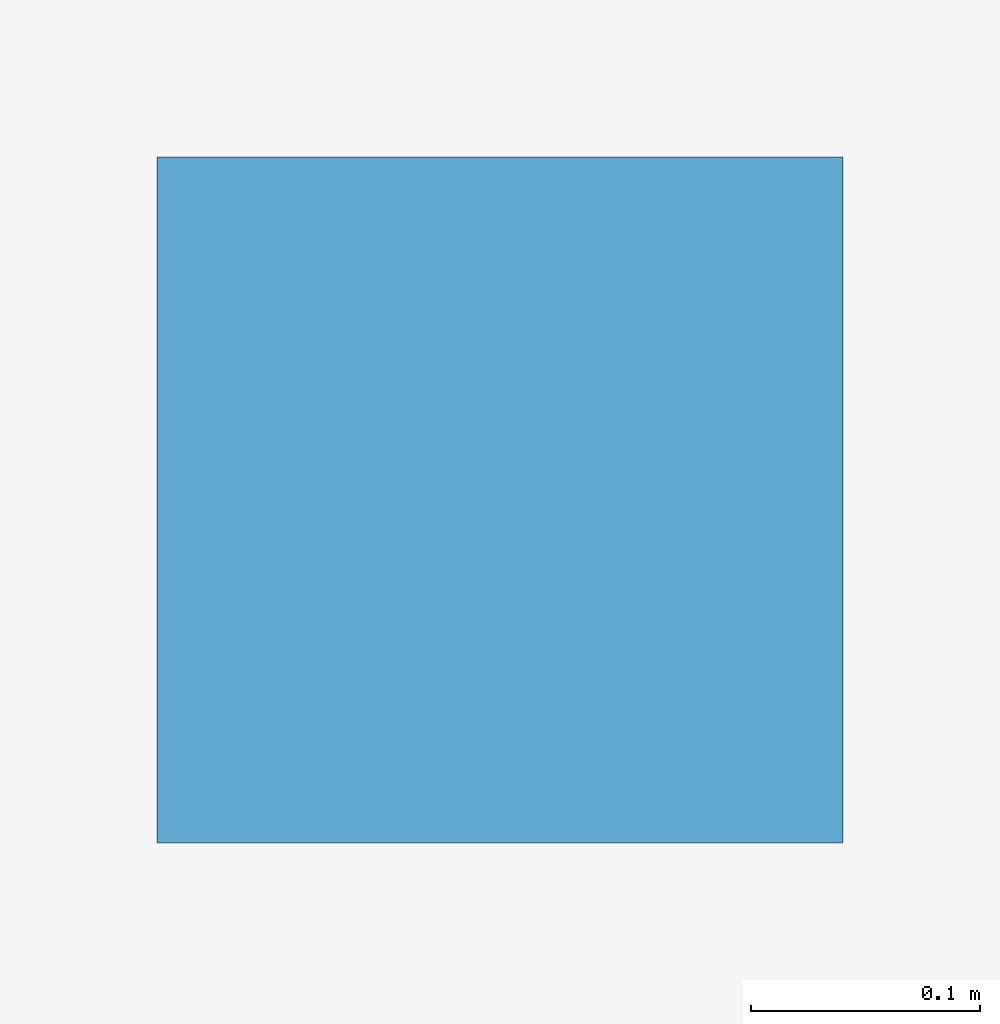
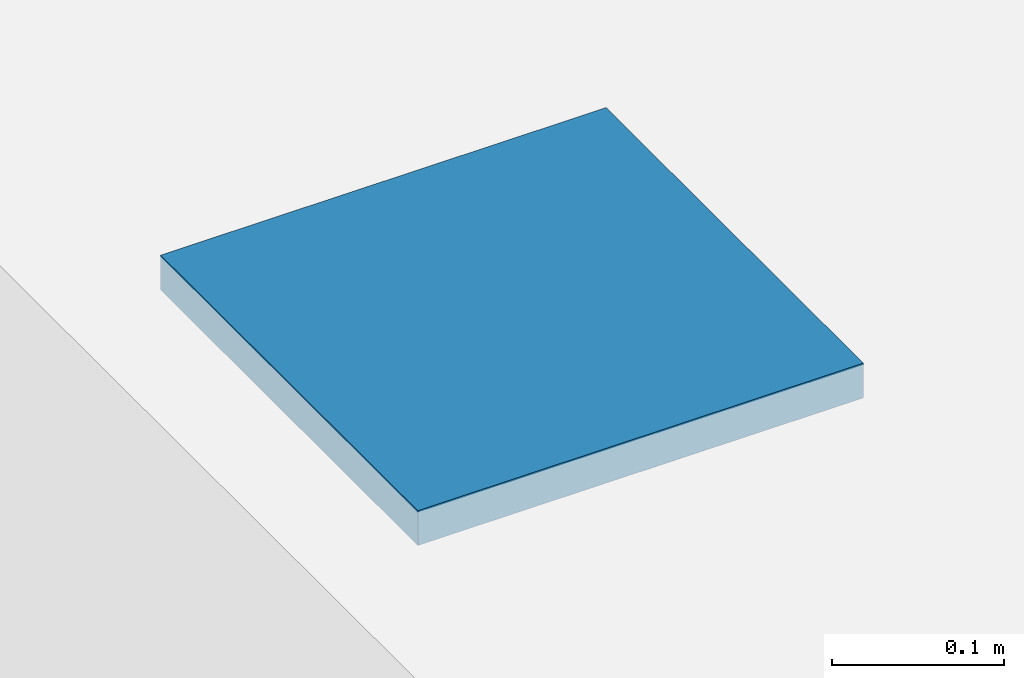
# One storey, part 38 of 194: 1 discrete accessory.
"""IFC2X3 building model written with IfcOpenShell, lengths in millimetres."""

from ifc_helpers import new_model, entity, si_unit, converted_unit, derived_unit, money_unit, direction, frame, origin_with_axes, place, context, subcontext, project, spatial, faceted_brep, source, transform, mapped, type_object, element, save


model = new_model("IFC2X3")

# Units and contexts
model_context = context("Model", 3, precision=1e-05, world=origin_with_axes(), true_north=direction((0.0, 1.0)))
body_context = subcontext(model_context, "Body", "Model", "MODEL_VIEW")
ifc_project = project(units=[si_unit("LENGTHUNIT", "METRE", prefix="MILLI"), si_unit("AREAUNIT", "SQUARE_METRE"), si_unit("VOLUMEUNIT", "CUBIC_METRE"), converted_unit("PLANEANGLEUNIT", "DEGREE", entity("IfcPlaneAngleMeasure", 0.0174532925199), si_unit("PLANEANGLEUNIT", "RADIAN"), dimensions=[0, 0, 0, 0, 0, 0, 0]), si_unit("SOLIDANGLEUNIT", "STERADIAN"), money_unit("EUR"), converted_unit("TIMEUNIT", "Year", entity("IfcTimeMeasure", 31556926.0), si_unit("TIMEUNIT", "SECOND"), dimensions=[0, 0, 1, 0, 0, 0, 0]), si_unit("MASSUNIT", "GRAM", prefix="KILO"), si_unit("THERMODYNAMICTEMPERATUREUNIT", "DEGREE_CELSIUS"), si_unit("LUMINOUSINTENSITYUNIT", "LUMEN"), si_unit("ENERGYUNIT", "JOULE", prefix="MEGA"), derived_unit("THERMALCONDUCTANCEUNIT", [(si_unit("POWERUNIT", "WATT"), 1), (si_unit("LENGTHUNIT", "METRE"), -1), (si_unit("THERMODYNAMICTEMPERATUREUNIT", "KELVIN"), -1)]), derived_unit("SPECIFICHEATCAPACITYUNIT", [(si_unit("ENERGYUNIT", "JOULE"), 1), (si_unit("MASSUNIT", "GRAM", prefix="KILO"), -1), (si_unit("THERMODYNAMICTEMPERATUREUNIT", "KELVIN"), -1)]), derived_unit("MASSDENSITYUNIT", [(si_unit("MASSUNIT", "GRAM", prefix="KILO"), 1), (si_unit("VOLUMEUNIT", "CUBIC_METRE"), -1)])], contexts=[model_context])

# Site, building, storey
site_placement = place(None, origin_with_axes())
site = spatial("IfcSite", under=ifc_project, at=site_placement, Name="Site", CompositionType="ELEMENT")
building_placement = place(site_placement, origin_with_axes())
building = spatial("IfcBuilding", under=site, at=building_placement, Name="Building", CompositionType="ELEMENT")
storey_placement = place(building_placement, frame((0.0, 0.0, 3000.0), z_axis=(0.0, 0.0, 1.0), x_axis=(1.0, 0.0, 0.0)))
storey = spatial("IfcBuildingStorey", under=building, at=storey_placement, Name="2 KORRUS", CompositionType="ELEMENT", Elevation=3000.0)

# Discrete accessory
discrete_accessory_type = type_object("IfcDiscreteAccessoryType", Name="Cube 22")
shared_shape = source(origin_with_axes(), body_context, "Body", "Brep", [
    faceted_brep([(300.0, 0.0, 0.0), (0.0, 0.0, 0.0), (0.0, 300.0, 0.0), (300.0, 300.0, 0.0), (300.0, 0.0, 24.7936240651), (0.0, 0.0, 24.7936240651), (0.0, 300.0, 24.7936240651), (300.0, 300.0, 24.7936240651)], [[[0, 1, 2, 3]], [[1, 0, 4, 5]], [[2, 1, 5, 6]], [[3, 2, 6, 7]], [[0, 3, 7, 4]], [[5, 4, 7, 6]]]),
])
discrete_accessory_placement = place(storey_placement, frame((37927.8736044, 29325.1820324, -24.7936240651), z_axis=(0.0, 0.0, 1.0), x_axis=(0.0, 1.0, 0.0)))
element("IfcDiscreteAccessory", 1, at=discrete_accessory_placement, inside=storey, type_object=discrete_accessory_type, Name="FU - 020", context=body_context, shape_type="MappedRepresentation", body=[
    mapped(shared_shape, transform((0.0, 0.0, 0.0))),
])

save(model, "model.ifc")
